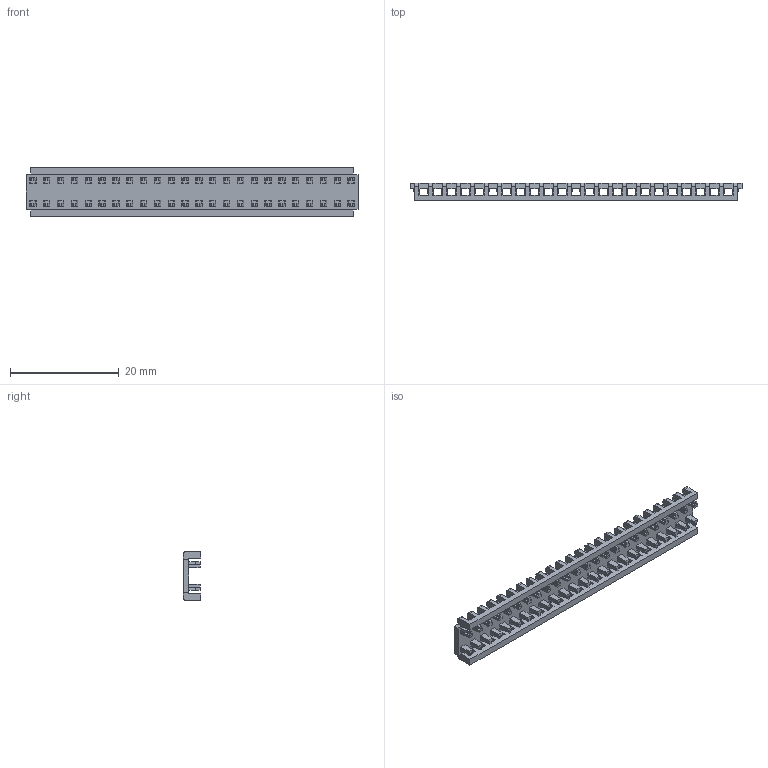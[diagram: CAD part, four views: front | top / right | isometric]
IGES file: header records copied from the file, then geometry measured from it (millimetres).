
Start section:  PTC IGES file: c-0643077-24-l-3d.igs
Global section: file name: c-0643077-24-l-3d.igs; native system: Pro/ENGINEER by Parametric Technology Corporation; preprocessor: 2005450; author: workeradm; organization: Unknown; date: 070904.122528; units: millimetre
Bounding box: 60.96 x 3.23 x 9.14 mm (x, y, z)
Surface area: 2218.9 mm2 (no closed solid volume)
Topology: 0 solids, 0 shells, 778 faces, 4536 edges, 4536 vertices
Faces by surface type: bspline 730, revolution 48
